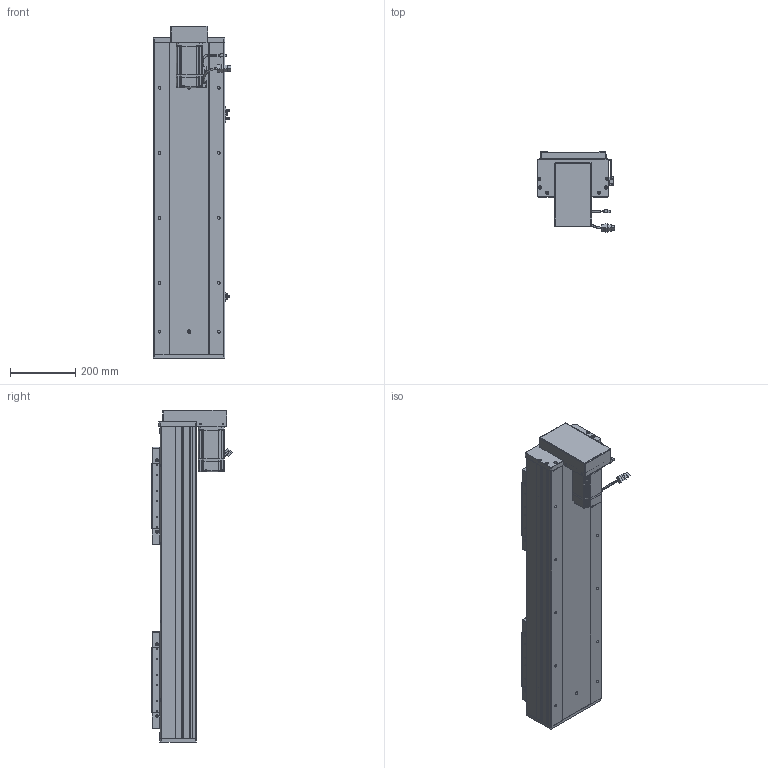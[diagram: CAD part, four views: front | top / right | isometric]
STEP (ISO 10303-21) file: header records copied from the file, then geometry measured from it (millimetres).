
FILE_DESCRIPTION (( 'STEP AP203' ), '1' );
FILE_NAME ('RY220F-L2525-300-BK.SLDASM_550.step', '2022-07-04T01:20:29', ( '' ), ( '' ), 'SwSTEP 2.0', 'SolidWorks 2016', '' );
FILE_SCHEMA (( 'CONFIG_CONTROL_DESIGN' ));
Length unit declared in the file: millimetre
Products named in the file (15): 覜茼ん672; RY220F臏賑釱25-32佪裝; RY220狟殏萇儂假蚾啣; RY220F-L2525-300-BK.SLDASM_550; RY220F蛌殏菁釱-300_550; RY220F-滅鳥奻裔; RY220狟殏萇儂欶; 侐源滅袉蝶; 怢湛750W_ECMA-CX0807ES; RY220F-詩湍揤踡輸; 滅袉蝶18-24; RY220F-蛌殏奻裔啣-300_550; RY220F-672覜茼んえ; RY220F綴裔啣; RY220F-祥凄詩湍-蛌殏-300_550
Assembly tree (24 placements, depth 2):
  RY220F-L2525-300-BK.SLDASM_550
    RY220F蛌殏菁釱-300_550
    RY220F-蛌殏奻裔啣-300_550  x2
    怢湛750W_ECMA-CX0807ES
    RY220F臏賑釱25-32佪裝  x2
    RY220F-滅鳥奻裔  x2
    滅袉蝶18-24  x3
    RY220F綴裔啣
    RY220F-祥凄詩湍-蛌殏-300_550
    RY220F-詩湍揤踡輸  x2
    覜茼ん672  x3
    RY220F-672覜茼んえ  x2
    侐源滅袉蝶  x2
    RY220狟殏萇儂假蚾啣
    RY220狟殏萇儂欶
Bounding box: 237.27 x 247.24 x 1021 mm (x, y, z)
Volume: 11450682.5 mm3; surface area: 2883120 mm2
Topology: 25 solids, 25 shells, 2683 faces, 7306 edges, 4541 vertices
Faces by surface type: cylinder 1182, plane 1062, cone 368, bspline 45, sphere 16, torus 10
Entity records: 66285 total; most frequent: CARTESIAN_POINT 18271, ORIENTED_EDGE 9746, DIRECTION 9349, EDGE_CURVE 4873, AXIS2_PLACEMENT_3D 3286, VERTEX_POINT 3157, LINE 2777, VECTOR 2777
